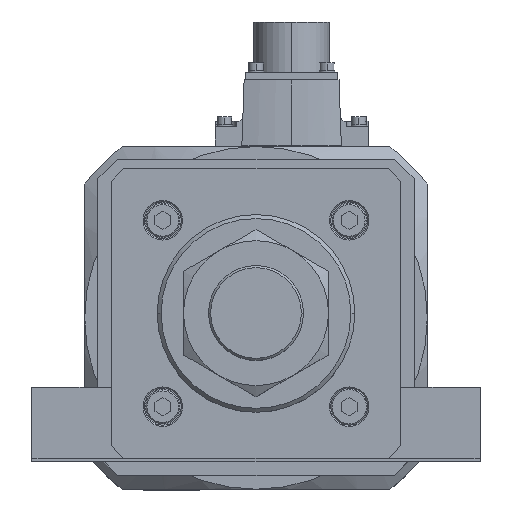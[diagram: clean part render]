
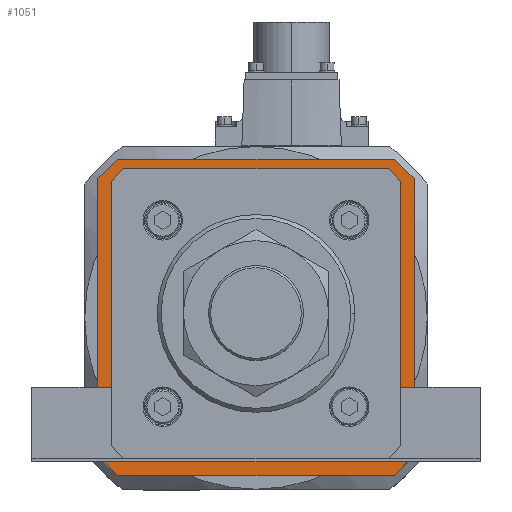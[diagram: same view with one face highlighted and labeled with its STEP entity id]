
A CAD part, top view. The second image highlights one B-rep face of the part: STEP entity #1051.
In plain terms, the highlighted planar face has unit normal (0, 0, 1).
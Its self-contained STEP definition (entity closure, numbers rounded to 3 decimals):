
#13 = ORIENTED_EDGE ( 'NONE', *, *, #20987, .F. ) ;
#154 = DIRECTION ( 'NONE',  ( -0.707, 0.707, 0. ) ) ;
#231 = DIRECTION ( 'NONE',  ( 0., -1., 0. ) ) ;
#281 = VECTOR ( 'NONE', #711, 1000. ) ;
#350 = ORIENTED_EDGE ( 'NONE', *, *, #30547, .T. ) ;
#589 = CARTESIAN_POINT ( 'NONE',  ( 52.5, -60., -119. ) ) ;
#711 = DIRECTION ( 'NONE',  ( -0.707, 0.707, 0. ) ) ;
#1051 = ADVANCED_FACE ( 'NONE', ( #24344, #2467 ), #5968, .T. ) ;
#1098 = EDGE_CURVE ( 'NONE', #27769, #35212, #23441, .T. ) ;
#1246 = VERTEX_POINT ( 'NONE', #3256 ) ;
#2467 = FACE_OUTER_BOUND ( 'NONE', #24738, .T. ) ;
#3151 = ORIENTED_EDGE ( 'NONE', *, *, #28760, .F. ) ;
#3256 = CARTESIAN_POINT ( 'NONE',  ( -53.5, -49.593, -119. ) ) ;
#3610 = ORIENTED_EDGE ( 'NONE', *, *, #17929, .F. ) ;
#3841 = VERTEX_POINT ( 'NONE', #11787 ) ;
#4222 = DIRECTION ( 'NONE',  ( 0.707, -0.707, 0. ) ) ;
#4226 = VECTOR ( 'NONE', #19648, 1000. ) ;
#4262 = LINE ( 'NONE', #13831, #5684 ) ;
#4425 = LINE ( 'NONE', #18051, #24508 ) ;
#5230 = LINE ( 'NONE', #18251, #28946 ) ;
#5684 = VECTOR ( 'NONE', #28543, 1000. ) ;
#5862 = VECTOR ( 'NONE', #10344, 1000. ) ;
#5968 = PLANE ( 'NONE',  #27439 ) ;
#6086 = DIRECTION ( 'NONE',  ( 0., -1., 0. ) ) ;
#6160 = CARTESIAN_POINT ( 'NONE',  ( -53.5, 49.593, -119. ) ) ;
#6398 = CARTESIAN_POINT ( 'NONE',  ( 49.593, 53.5, -119. ) ) ;
#6457 = CARTESIAN_POINT ( 'NONE',  ( -52.5, -60., -119. ) ) ;
#7378 = DIRECTION ( 'NONE',  ( 1., 0., 0. ) ) ;
#7748 = CARTESIAN_POINT ( 'NONE',  ( -49.446, 53.646, -119. ) ) ;
#7846 = VERTEX_POINT ( 'NONE', #27831 ) ;
#8299 = CARTESIAN_POINT ( 'NONE',  ( 49.593, -53.5, -119. ) ) ;
#9005 = LINE ( 'NONE', #24496, #21313 ) ;
#9459 = DIRECTION ( 'NONE',  ( -1., 0., 0. ) ) ;
#10052 = VERTEX_POINT ( 'NONE', #11812 ) ;
#10344 = DIRECTION ( 'NONE',  ( 0., 1., 0. ) ) ;
#10827 = EDGE_CURVE ( 'NONE', #25111, #26577, #15268, .T. ) ;
#11137 = LINE ( 'NONE', #16711, #4226 ) ;
#11261 = ORIENTED_EDGE ( 'NONE', *, *, #29154, .F. ) ;
#11787 = CARTESIAN_POINT ( 'NONE',  ( -60., 52.5, -119. ) ) ;
#11812 = CARTESIAN_POINT ( 'NONE',  ( 60., -52.5, -119. ) ) ;
#12329 = VERTEX_POINT ( 'NONE', #22326 ) ;
#12605 = CARTESIAN_POINT ( 'NONE',  ( -52.5, -60., -119. ) ) ;
#13054 = CARTESIAN_POINT ( 'NONE',  ( -52.5, 60., -119. ) ) ;
#13407 = CARTESIAN_POINT ( 'NONE',  ( 49.8, 53.5, -119. ) ) ;
#13831 = CARTESIAN_POINT ( 'NONE',  ( -60., 52.5, -119. ) ) ;
#13857 = VERTEX_POINT ( 'NONE', #12605 ) ;
#14061 = EDGE_CURVE ( 'NONE', #7846, #3841, #4262, .T. ) ;
#14200 = DIRECTION ( 'NONE',  ( 1., 0., 0. ) ) ;
#15268 = LINE ( 'NONE', #13407, #34820 ) ;
#15754 = VECTOR ( 'NONE', #14200, 1000. ) ;
#15936 = VECTOR ( 'NONE', #9459, 1000. ) ;
#16070 = ORIENTED_EDGE ( 'NONE', *, *, #19455, .F. ) ;
#16472 = CARTESIAN_POINT ( 'NONE',  ( 49.446, -53.646, -119. ) ) ;
#16649 = CARTESIAN_POINT ( 'NONE',  ( 53.5, 49.593, -119. ) ) ;
#16711 = CARTESIAN_POINT ( 'NONE',  ( 60., -52.5, -119. ) ) ;
#16812 = CARTESIAN_POINT ( 'NONE',  ( -49.593, 53.5, -119. ) ) ;
#16984 = CARTESIAN_POINT ( 'NONE',  ( -49.593, -53.5, -119. ) ) ;
#17604 = CARTESIAN_POINT ( 'NONE',  ( -53.646, -49.446, -119. ) ) ;
#17732 = ORIENTED_EDGE ( 'NONE', *, *, #1098, .T. ) ;
#17929 = EDGE_CURVE ( 'NONE', #12329, #29521, #9005, .T. ) ;
#17962 = ORIENTED_EDGE ( 'NONE', *, *, #10827, .T. ) ;
#18051 = CARTESIAN_POINT ( 'NONE',  ( 52.5, -60., -119. ) ) ;
#18251 = CARTESIAN_POINT ( 'NONE',  ( 53.646, 49.446, -119. ) ) ;
#18552 = ORIENTED_EDGE ( 'NONE', *, *, #26533, .T. ) ;
#18791 = VERTEX_POINT ( 'NONE', #8299 ) ;
#18840 = VECTOR ( 'NONE', #33855, 1000. ) ;
#19407 = LINE ( 'NONE', #36976, #15754 ) ;
#19455 = EDGE_CURVE ( 'NONE', #13857, #7846, #24806, .T. ) ;
#19648 = DIRECTION ( 'NONE',  ( -0.707, -0.707, 0. ) ) ;
#19917 = VERTEX_POINT ( 'NONE', #6160 ) ;
#20010 = LINE ( 'NONE', #17604, #29098 ) ;
#20017 = EDGE_CURVE ( 'NONE', #26577, #27769, #5230, .T. ) ;
#20315 = LINE ( 'NONE', #20613, #36268 ) ;
#20613 = CARTESIAN_POINT ( 'NONE',  ( 60., 52.5, -119. ) ) ;
#20940 = DIRECTION ( 'NONE',  ( 0.707, -0.707, 0. ) ) ;
#20987 = EDGE_CURVE ( 'NONE', #10052, #30921, #11137, .T. ) ;
#20993 = DIRECTION ( 'NONE',  ( -1., 0., 0. ) ) ;
#21067 = EDGE_LOOP ( 'NONE', ( #17962, #26479, #17732, #27113, #32528, #18552, #350, #24737 ) ) ;
#21313 = VECTOR ( 'NONE', #4222, 1000. ) ;
#22326 = CARTESIAN_POINT ( 'NONE',  ( 52.5, 60., -119. ) ) ;
#22876 = VERTEX_POINT ( 'NONE', #13054 ) ;
#23023 = DIRECTION ( 'NONE',  ( 0., 0., 1. ) ) ;
#23441 = LINE ( 'NONE', #35232, #30253 ) ;
#23524 = DIRECTION ( 'NONE',  ( 1., 0., 0. ) ) ;
#24344 = FACE_BOUND ( 'NONE', #21067, .T. ) ;
#24496 = CARTESIAN_POINT ( 'NONE',  ( 60., 52.5, -119. ) ) ;
#24508 = VECTOR ( 'NONE', #20993, 1000. ) ;
#24518 = VERTEX_POINT ( 'NONE', #16984 ) ;
#24737 = ORIENTED_EDGE ( 'NONE', *, *, #25706, .T. ) ;
#24738 = EDGE_LOOP ( 'NONE', ( #11261, #34376, #31533, #16070, #31944, #13, #3151, #3610 ) ) ;
#24806 = LINE ( 'NONE', #6457, #281 ) ;
#25063 = CARTESIAN_POINT ( 'NONE',  ( -53.5, 49.8, -119. ) ) ;
#25111 = VERTEX_POINT ( 'NONE', #16812 ) ;
#25268 = DIRECTION ( 'NONE',  ( 0.707, 0.707, 0. ) ) ;
#25706 = EDGE_CURVE ( 'NONE', #19917, #25111, #34868, .T. ) ;
#26076 = CARTESIAN_POINT ( 'NONE',  ( 0., 0., -119. ) ) ;
#26479 = ORIENTED_EDGE ( 'NONE', *, *, #20017, .T. ) ;
#26533 = EDGE_CURVE ( 'NONE', #24518, #1246, #20010, .T. ) ;
#26577 = VERTEX_POINT ( 'NONE', #6398 ) ;
#27113 = ORIENTED_EDGE ( 'NONE', *, *, #34059, .T. ) ;
#27243 = LINE ( 'NONE', #34157, #29074 ) ;
#27439 = AXIS2_PLACEMENT_3D ( 'NONE', #26076, #23023, #23524 ) ;
#27769 = VERTEX_POINT ( 'NONE', #16649 ) ;
#27831 = CARTESIAN_POINT ( 'NONE',  ( -60., -52.5, -119. ) ) ;
#28228 = LINE ( 'NONE', #29284, #15936 ) ;
#28543 = DIRECTION ( 'NONE',  ( 0., 1., 0. ) ) ;
#28584 = DIRECTION ( 'NONE',  ( 0.707, 0.707, 0. ) ) ;
#28760 = EDGE_CURVE ( 'NONE', #29521, #10052, #20315, .T. ) ;
#28946 = VECTOR ( 'NONE', #20940, 1000. ) ;
#29074 = VECTOR ( 'NONE', #25268, 1000. ) ;
#29098 = VECTOR ( 'NONE', #154, 1000. ) ;
#29154 = EDGE_CURVE ( 'NONE', #22876, #12329, #19407, .T. ) ;
#29284 = CARTESIAN_POINT ( 'NONE',  ( -49.8, -53.5, -119. ) ) ;
#29521 = VERTEX_POINT ( 'NONE', #33355 ) ;
#29865 = VECTOR ( 'NONE', #28584, 1000. ) ;
#29934 = EDGE_CURVE ( 'NONE', #18791, #24518, #28228, .T. ) ;
#30253 = VECTOR ( 'NONE', #231, 1000. ) ;
#30547 = EDGE_CURVE ( 'NONE', #1246, #19917, #30881, .T. ) ;
#30881 = LINE ( 'NONE', #25063, #5862 ) ;
#30921 = VERTEX_POINT ( 'NONE', #589 ) ;
#30958 = EDGE_CURVE ( 'NONE', #30921, #13857, #4425, .T. ) ;
#31533 = ORIENTED_EDGE ( 'NONE', *, *, #14061, .F. ) ;
#31944 = ORIENTED_EDGE ( 'NONE', *, *, #30958, .F. ) ;
#32528 = ORIENTED_EDGE ( 'NONE', *, *, #29934, .T. ) ;
#33355 = CARTESIAN_POINT ( 'NONE',  ( 60., 52.5, -119. ) ) ;
#33855 = DIRECTION ( 'NONE',  ( -0.707, -0.707, 0. ) ) ;
#34059 = EDGE_CURVE ( 'NONE', #35212, #18791, #34739, .T. ) ;
#34157 = CARTESIAN_POINT ( 'NONE',  ( -52.5, 60., -119. ) ) ;
#34376 = ORIENTED_EDGE ( 'NONE', *, *, #37007, .F. ) ;
#34739 = LINE ( 'NONE', #16472, #18840 ) ;
#34820 = VECTOR ( 'NONE', #7378, 1000. ) ;
#34868 = LINE ( 'NONE', #7748, #29865 ) ;
#35212 = VERTEX_POINT ( 'NONE', #36260 ) ;
#35232 = CARTESIAN_POINT ( 'NONE',  ( 53.5, -49.8, -119. ) ) ;
#36260 = CARTESIAN_POINT ( 'NONE',  ( 53.5, -49.593, -119. ) ) ;
#36268 = VECTOR ( 'NONE', #6086, 1000. ) ;
#36976 = CARTESIAN_POINT ( 'NONE',  ( 52.5, 60., -119. ) ) ;
#37007 = EDGE_CURVE ( 'NONE', #3841, #22876, #27243, .T. ) ;
